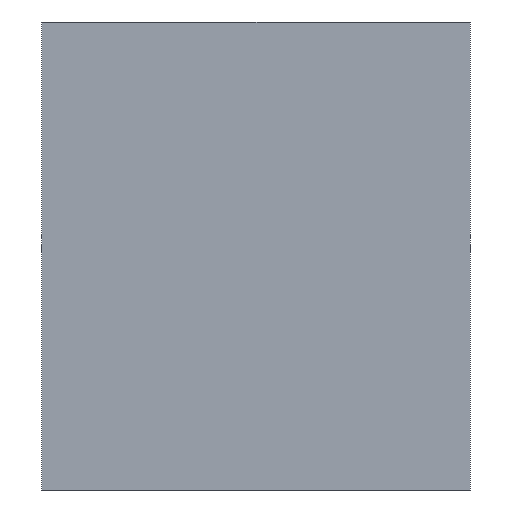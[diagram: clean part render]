
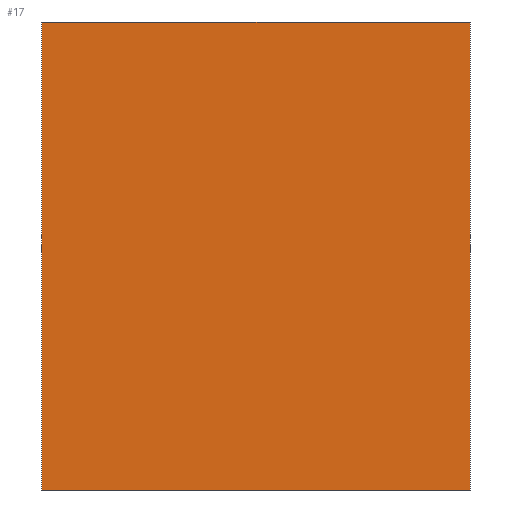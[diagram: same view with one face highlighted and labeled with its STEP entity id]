
A CAD part, left-side view. The second image highlights one B-rep face of the part: STEP entity #17.
In plain terms, the highlighted planar face has unit normal (-1, 0, 0).
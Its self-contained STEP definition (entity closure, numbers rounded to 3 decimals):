
#17 = ADVANCED_FACE('',(#18),#32,.F.);
#18 = FACE_BOUND('',#19,.F.);
#19 = EDGE_LOOP('',(#20,#55,#83,#111));
#20 = ORIENTED_EDGE('',*,*,#21,.F.);
#21 = EDGE_CURVE('',#22,#24,#26,.T.);
#22 = VERTEX_POINT('',#23);
#23 = CARTESIAN_POINT('',(-4.3,-2.15,0.));
#24 = VERTEX_POINT('',#25);
#25 = CARTESIAN_POINT('',(-4.3,-2.15,4.7));
#26 = SURFACE_CURVE('',#27,(#31,#43),.PCURVE_S1.);
#27 = LINE('',#28,#29);
#28 = CARTESIAN_POINT('',(-4.3,-2.15,0.));
#29 = VECTOR('',#30,1.);
#30 = DIRECTION('',(0.,0.,1.));
#31 = PCURVE('',#32,#37);
#32 = PLANE('',#33);
#33 = AXIS2_PLACEMENT_3D('',#34,#35,#36);
#34 = CARTESIAN_POINT('',(-4.3,-2.15,0.));
#35 = DIRECTION('',(1.,0.,0.));
#36 = DIRECTION('',(0.,0.,1.));
#37 = DEFINITIONAL_REPRESENTATION('',(#38),#42);
#38 = LINE('',#39,#40);
#39 = CARTESIAN_POINT('',(0.,0.));
#40 = VECTOR('',#41,1.);
#41 = DIRECTION('',(1.,0.));
#42 = ( GEOMETRIC_REPRESENTATION_CONTEXT(2) 
PARAMETRIC_REPRESENTATION_CONTEXT() REPRESENTATION_CONTEXT('2D SPACE',''
  ) );
#43 = PCURVE('',#44,#49);
#44 = PLANE('',#45);
#45 = AXIS2_PLACEMENT_3D('',#46,#47,#48);
#46 = CARTESIAN_POINT('',(-4.3,-2.15,0.));
#47 = DIRECTION('',(0.,1.,0.));
#48 = DIRECTION('',(0.,0.,1.));
#49 = DEFINITIONAL_REPRESENTATION('',(#50),#54);
#50 = LINE('',#51,#52);
#51 = CARTESIAN_POINT('',(0.,0.));
#52 = VECTOR('',#53,1.);
#53 = DIRECTION('',(1.,0.));
#54 = ( GEOMETRIC_REPRESENTATION_CONTEXT(2) 
PARAMETRIC_REPRESENTATION_CONTEXT() REPRESENTATION_CONTEXT('2D SPACE',''
  ) );
#55 = ORIENTED_EDGE('',*,*,#56,.T.);
#56 = EDGE_CURVE('',#22,#57,#59,.T.);
#57 = VERTEX_POINT('',#58);
#58 = CARTESIAN_POINT('',(-4.3,2.15,0.));
#59 = SURFACE_CURVE('',#60,(#64,#71),.PCURVE_S1.);
#60 = LINE('',#61,#62);
#61 = CARTESIAN_POINT('',(-4.3,-2.15,0.));
#62 = VECTOR('',#63,1.);
#63 = DIRECTION('',(0.,1.,0.));
#64 = PCURVE('',#32,#65);
#65 = DEFINITIONAL_REPRESENTATION('',(#66),#70);
#66 = LINE('',#67,#68);
#67 = CARTESIAN_POINT('',(0.,0.));
#68 = VECTOR('',#69,1.);
#69 = DIRECTION('',(0.,-1.));
#70 = ( GEOMETRIC_REPRESENTATION_CONTEXT(2) 
PARAMETRIC_REPRESENTATION_CONTEXT() REPRESENTATION_CONTEXT('2D SPACE',''
  ) );
#71 = PCURVE('',#72,#77);
#72 = PLANE('',#73);
#73 = AXIS2_PLACEMENT_3D('',#74,#75,#76);
#74 = CARTESIAN_POINT('',(-4.3,-2.15,0.));
#75 = DIRECTION('',(0.,0.,1.));
#76 = DIRECTION('',(1.,0.,0.));
#77 = DEFINITIONAL_REPRESENTATION('',(#78),#82);
#78 = LINE('',#79,#80);
#79 = CARTESIAN_POINT('',(0.,0.));
#80 = VECTOR('',#81,1.);
#81 = DIRECTION('',(0.,1.));
#82 = ( GEOMETRIC_REPRESENTATION_CONTEXT(2) 
PARAMETRIC_REPRESENTATION_CONTEXT() REPRESENTATION_CONTEXT('2D SPACE',''
  ) );
#83 = ORIENTED_EDGE('',*,*,#84,.T.);
#84 = EDGE_CURVE('',#57,#85,#87,.T.);
#85 = VERTEX_POINT('',#86);
#86 = CARTESIAN_POINT('',(-4.3,2.15,4.7));
#87 = SURFACE_CURVE('',#88,(#92,#99),.PCURVE_S1.);
#88 = LINE('',#89,#90);
#89 = CARTESIAN_POINT('',(-4.3,2.15,0.));
#90 = VECTOR('',#91,1.);
#91 = DIRECTION('',(0.,0.,1.));
#92 = PCURVE('',#32,#93);
#93 = DEFINITIONAL_REPRESENTATION('',(#94),#98);
#94 = LINE('',#95,#96);
#95 = CARTESIAN_POINT('',(0.,-4.3));
#96 = VECTOR('',#97,1.);
#97 = DIRECTION('',(1.,0.));
#98 = ( GEOMETRIC_REPRESENTATION_CONTEXT(2) 
PARAMETRIC_REPRESENTATION_CONTEXT() REPRESENTATION_CONTEXT('2D SPACE',''
  ) );
#99 = PCURVE('',#100,#105);
#100 = PLANE('',#101);
#101 = AXIS2_PLACEMENT_3D('',#102,#103,#104);
#102 = CARTESIAN_POINT('',(-4.3,2.15,0.));
#103 = DIRECTION('',(0.,1.,0.));
#104 = DIRECTION('',(0.,0.,1.));
#105 = DEFINITIONAL_REPRESENTATION('',(#106),#110);
#106 = LINE('',#107,#108);
#107 = CARTESIAN_POINT('',(0.,0.));
#108 = VECTOR('',#109,1.);
#109 = DIRECTION('',(1.,0.));
#110 = ( GEOMETRIC_REPRESENTATION_CONTEXT(2) 
PARAMETRIC_REPRESENTATION_CONTEXT() REPRESENTATION_CONTEXT('2D SPACE',''
  ) );
#111 = ORIENTED_EDGE('',*,*,#112,.F.);
#112 = EDGE_CURVE('',#24,#85,#113,.T.);
#113 = SURFACE_CURVE('',#114,(#118,#125),.PCURVE_S1.);
#114 = LINE('',#115,#116);
#115 = CARTESIAN_POINT('',(-4.3,-2.15,4.7));
#116 = VECTOR('',#117,1.);
#117 = DIRECTION('',(0.,1.,0.));
#118 = PCURVE('',#32,#119);
#119 = DEFINITIONAL_REPRESENTATION('',(#120),#124);
#120 = LINE('',#121,#122);
#121 = CARTESIAN_POINT('',(4.7,0.));
#122 = VECTOR('',#123,1.);
#123 = DIRECTION('',(0.,-1.));
#124 = ( GEOMETRIC_REPRESENTATION_CONTEXT(2) 
PARAMETRIC_REPRESENTATION_CONTEXT() REPRESENTATION_CONTEXT('2D SPACE',''
  ) );
#125 = PCURVE('',#126,#131);
#126 = PLANE('',#127);
#127 = AXIS2_PLACEMENT_3D('',#128,#129,#130);
#128 = CARTESIAN_POINT('',(-4.3,-2.15,4.7));
#129 = DIRECTION('',(0.,0.,1.));
#130 = DIRECTION('',(1.,0.,0.));
#131 = DEFINITIONAL_REPRESENTATION('',(#132),#136);
#132 = LINE('',#133,#134);
#133 = CARTESIAN_POINT('',(0.,0.));
#134 = VECTOR('',#135,1.);
#135 = DIRECTION('',(0.,1.));
#136 = ( GEOMETRIC_REPRESENTATION_CONTEXT(2) 
PARAMETRIC_REPRESENTATION_CONTEXT() REPRESENTATION_CONTEXT('2D SPACE',''
  ) );
